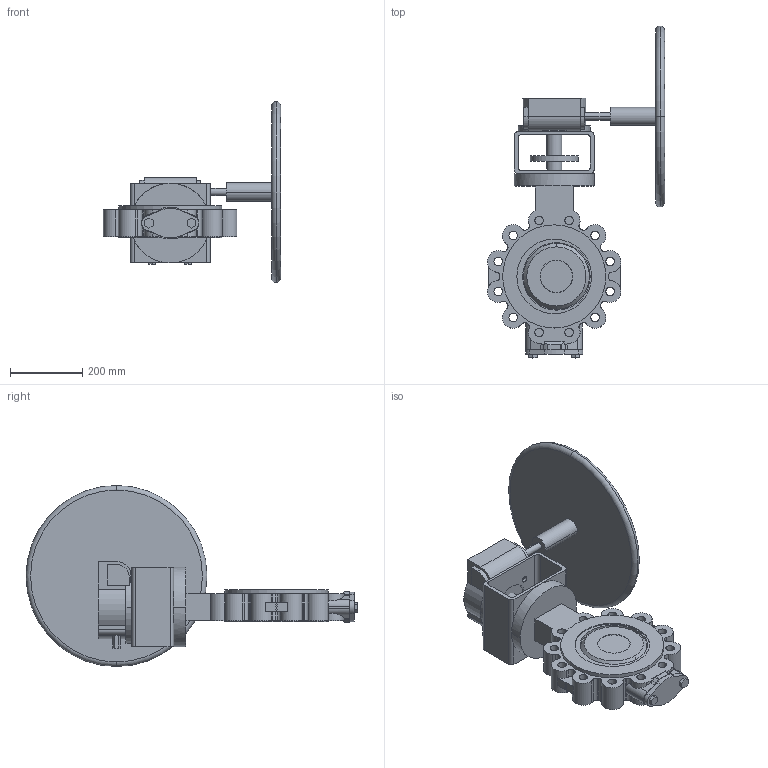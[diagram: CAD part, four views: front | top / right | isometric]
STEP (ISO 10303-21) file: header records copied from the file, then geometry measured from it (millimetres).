
FILE_DESCRIPTION( ( '' ), '1' );
FILE_NAME( 'F:/DE-SHS/TB/OR/04-Sonstiges/daten/Excel/mneugeba/018_ZETRIX-PN40_Getriebe-Rotork/c000006454.stp', '2016-09-19T06:42:02', ( '' ), ( '' ), ' ', ' ', ' ' );
FILE_SCHEMA( ( 'CONFIG_CONTROL_DESIGN' ) );
Length unit declared in the file: millimetre
Products named in the file (2): 1; 2
Bounding box: 489.53 x 917.3 x 500 mm (x, y, z)
Volume: 18192510.8 mm3; surface area: 1426802.1 mm2
Topology: 2 solids, 2 shells, 379 faces, 1023 edges, 677 vertices
Faces by surface type: cylinder 209, plane 158, cone 4, sphere 4, torus 4
Entity records: 13119 total; most frequent: CARTESIAN_POINT 3054, DIRECTION 2207, ORIENTED_EDGE 2046, EDGE_CURVE 1023, AXIS2_PLACEMENT_3D 852, VERTEX_POINT 677, LINE 503, VECTOR 503
